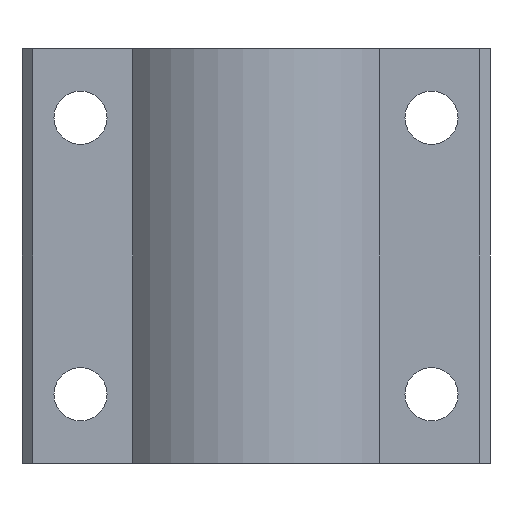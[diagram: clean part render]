
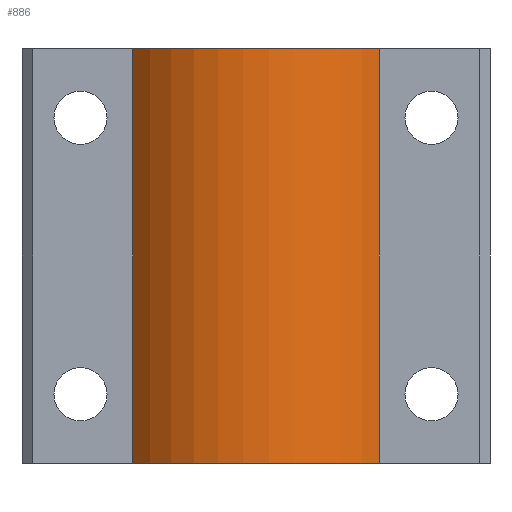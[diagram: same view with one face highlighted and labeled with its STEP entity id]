
A CAD part, front view. The second image highlights one B-rep face of the part: STEP entity #886.
In plain terms, the highlighted cylindrical face has radius 15 mm (diameter 30 mm), a partial arc.
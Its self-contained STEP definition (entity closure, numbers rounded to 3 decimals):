
#689=CARTESIAN_POINT('',(10.899,-5.302,-3.5));
#690=VERTEX_POINT('',#689);
#697=CARTESIAN_POINT('',(-12.317,-5.302,-3.5));
#698=VERTEX_POINT('',#697);
#699=CARTESIAN_POINT('',(-0.709,4.198,-3.5));
#700=DIRECTION('',(0.0,0.0,1.0));
#701=DIRECTION('',(0.774,0.633,0.0));
#702=AXIS2_PLACEMENT_3D('',#699,#700,#701);
#703=CIRCLE('',#702,15.);
#704=EDGE_CURVE('',#698,#690,#703,.T.);
#835=CARTESIAN_POINT('',(10.899,-5.302,35.5));
#836=VERTEX_POINT('',#835);
#843=CARTESIAN_POINT('',(10.899,-5.302,35.5));
#844=DIRECTION('',(0.0,0.0,-1.0));
#845=VECTOR('',#844,39.0);
#846=LINE('',#843,#845);
#847=EDGE_CURVE('',#836,#690,#846,.T.);
#862=CARTESIAN_POINT('',(-0.709,4.198,16.0));
#863=DIRECTION('',(0.0,0.0,1.0));
#864=DIRECTION('',(0.774,0.633,0.0));
#865=AXIS2_PLACEMENT_3D('',#862,#863,#864);
#866=CYLINDRICAL_SURFACE('',#865,15.);
#867=CARTESIAN_POINT('',(-12.317,-5.302,35.5));
#868=VERTEX_POINT('',#867);
#869=CARTESIAN_POINT('',(-0.709,4.198,35.5));
#870=DIRECTION('',(0.0,0.0,-1.0));
#871=DIRECTION('',(0.774,0.633,0.0));
#872=AXIS2_PLACEMENT_3D('',#869,#870,#871);
#873=CIRCLE('',#872,15.);
#874=EDGE_CURVE('',#836,#868,#873,.T.);
#875=ORIENTED_EDGE('',*,*,#874,.T.);
#876=CARTESIAN_POINT('',(-12.317,-5.302,35.5));
#877=DIRECTION('',(0.0,0.0,-1.0));
#878=VECTOR('',#877,39.0);
#879=LINE('',#876,#878);
#880=EDGE_CURVE('',#868,#698,#879,.T.);
#881=ORIENTED_EDGE('',*,*,#880,.T.);
#882=ORIENTED_EDGE('',*,*,#704,.T.);
#883=ORIENTED_EDGE('',*,*,#847,.F.);
#884=EDGE_LOOP('',(#875,#881,#882,#883));
#885=FACE_OUTER_BOUND('',#884,.T.);
#886=ADVANCED_FACE('',(#885),#866,.T.);
